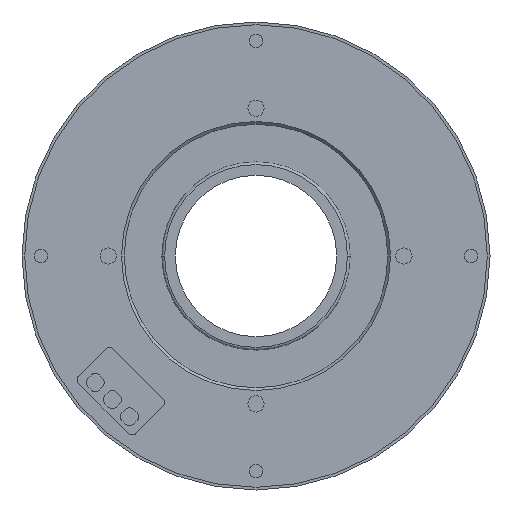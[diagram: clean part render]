
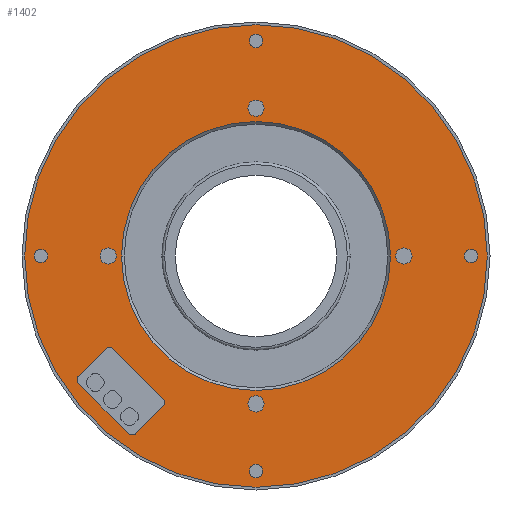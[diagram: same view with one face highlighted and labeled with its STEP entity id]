
A CAD part, front view. The second image highlights one B-rep face of the part: STEP entity #1402.
In plain terms, the highlighted planar face has unit normal (0, -1, 0).
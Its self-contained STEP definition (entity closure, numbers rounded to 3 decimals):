
#11=CARTESIAN_POINT('',(0.,0.,0.));
#12=DIRECTION('',(0.,-1.,0.));
#13=DIRECTION('',(-1.,0.,0.));
#14=AXIS2_PLACEMENT_3D('',#11,#12,#13);
#16=CARTESIAN_POINT('',(0.,0.,0.));
#17=DIRECTION('',(0.,-1.,0.));
#18=DIRECTION('',(1.,0.,0.));
#19=AXIS2_PLACEMENT_3D('',#16,#17,#18);
#21=CARTESIAN_POINT('',(0.,0.,27.5));
#22=DIRECTION('',(0.,-1.,0.));
#23=DIRECTION('',(1.,0.,0.));
#24=AXIS2_PLACEMENT_3D('',#21,#22,#23);
#26=CARTESIAN_POINT('',(0.,0.,27.5));
#27=DIRECTION('',(0.,-1.,0.));
#28=DIRECTION('',(-1.,0.,0.));
#29=AXIS2_PLACEMENT_3D('',#26,#27,#28);
#31=CARTESIAN_POINT('',(27.5,0.,0.));
#32=DIRECTION('',(0.,-1.,0.));
#33=DIRECTION('',(0.,0.,-1.));
#34=AXIS2_PLACEMENT_3D('',#31,#32,#33);
#36=CARTESIAN_POINT('',(27.5,0.,0.));
#37=DIRECTION('',(0.,-1.,0.));
#38=DIRECTION('',(0.,0.,1.));
#39=AXIS2_PLACEMENT_3D('',#36,#37,#38);
#41=CARTESIAN_POINT('',(0.,0.,-27.5));
#42=DIRECTION('',(0.,-1.,0.));
#43=DIRECTION('',(-1.,0.,0.));
#44=AXIS2_PLACEMENT_3D('',#41,#42,#43);
#46=CARTESIAN_POINT('',(0.,0.,-27.5));
#47=DIRECTION('',(0.,-1.,0.));
#48=DIRECTION('',(1.,0.,0.));
#49=AXIS2_PLACEMENT_3D('',#46,#47,#48);
#51=CARTESIAN_POINT('',(-27.5,0.,0.));
#52=DIRECTION('',(0.,-1.,0.));
#53=DIRECTION('',(0.,0.,1.));
#54=AXIS2_PLACEMENT_3D('',#51,#52,#53);
#56=CARTESIAN_POINT('',(-27.5,0.,0.));
#57=DIRECTION('',(0.,-1.,0.));
#58=DIRECTION('',(0.,0.,-1.));
#59=AXIS2_PLACEMENT_3D('',#56,#57,#58);
#71=CARTESIAN_POINT('',(0.,0.,0.));
#72=DIRECTION('',(0.,1.,0.));
#73=DIRECTION('',(1.,0.,0.));
#74=AXIS2_PLACEMENT_3D('',#71,#72,#73);
#76=CARTESIAN_POINT('',(0.,0.,0.));
#77=DIRECTION('',(0.,1.,0.));
#78=DIRECTION('',(-1.,0.,0.));
#79=AXIS2_PLACEMENT_3D('',#76,#77,#78);
#81=CARTESIAN_POINT('',(0.,0.,40.));
#82=DIRECTION('',(0.,-1.,0.));
#83=DIRECTION('',(1.,0.,0.));
#84=AXIS2_PLACEMENT_3D('',#81,#82,#83);
#86=CARTESIAN_POINT('',(0.,0.,40.));
#87=DIRECTION('',(0.,-1.,0.));
#88=DIRECTION('',(-1.,0.,0.));
#89=AXIS2_PLACEMENT_3D('',#86,#87,#88);
#91=CARTESIAN_POINT('',(40.,0.,0.));
#92=DIRECTION('',(0.,-1.,0.));
#93=DIRECTION('',(0.,0.,-1.));
#94=AXIS2_PLACEMENT_3D('',#91,#92,#93);
#96=CARTESIAN_POINT('',(40.,0.,0.));
#97=DIRECTION('',(0.,-1.,0.));
#98=DIRECTION('',(0.,0.,1.));
#99=AXIS2_PLACEMENT_3D('',#96,#97,#98);
#101=CARTESIAN_POINT('',(0.,0.,-40.));
#102=DIRECTION('',(0.,-1.,0.));
#103=DIRECTION('',(-1.,0.,0.));
#104=AXIS2_PLACEMENT_3D('',#101,#102,#103);
#106=CARTESIAN_POINT('',(0.,0.,-40.));
#107=DIRECTION('',(0.,-1.,0.));
#108=DIRECTION('',(1.,0.,0.));
#109=AXIS2_PLACEMENT_3D('',#106,#107,#108);
#111=CARTESIAN_POINT('',(-40.,0.,0.));
#112=DIRECTION('',(0.,-1.,0.));
#113=DIRECTION('',(0.,0.,1.));
#114=AXIS2_PLACEMENT_3D('',#111,#112,#113);
#116=CARTESIAN_POINT('',(-40.,0.,0.));
#117=DIRECTION('',(0.,-1.,0.));
#118=DIRECTION('',(0.,0.,-1.));
#119=AXIS2_PLACEMENT_3D('',#116,#117,#118);
#121=CARTESIAN_POINT('',(-27.259,0.,-17.996));
#122=DIRECTION('',(0.,-1.,0.));
#123=DIRECTION('',(0.707,0.,0.707));
#124=AXIS2_PLACEMENT_3D('',#121,#122,#123);
#126=DIRECTION('',(-0.707,0.,-0.707));
#127=VECTOR('',#126,7.1);
#128=CARTESIAN_POINT('',(-27.966,0.,-17.289));
#129=LINE('',#128,#127);
#130=CARTESIAN_POINT('',(-32.279,0.,-23.016));
#131=DIRECTION('',(0.,-1.,0.));
#132=DIRECTION('',(-0.707,0.,0.707));
#133=AXIS2_PLACEMENT_3D('',#130,#131,#132);
#135=DIRECTION('',(0.707,0.,-0.707));
#136=VECTOR('',#135,13.1);
#137=CARTESIAN_POINT('',(-32.987,0.,-23.723));
#138=LINE('',#137,#136);
#139=CARTESIAN_POINT('',(-23.016,0.,-32.279));
#140=DIRECTION('',(0.,-1.,0.));
#141=DIRECTION('',(-0.707,0.,-0.707));
#142=AXIS2_PLACEMENT_3D('',#139,#140,#141);
#144=DIRECTION('',(0.707,0.,0.707));
#145=VECTOR('',#144,7.1);
#146=CARTESIAN_POINT('',(-22.309,0.,-32.987));
#147=LINE('',#146,#145);
#148=CARTESIAN_POINT('',(-17.996,0.,-27.259));
#149=DIRECTION('',(0.,-1.,0.));
#150=DIRECTION('',(0.707,0.,-0.707));
#151=AXIS2_PLACEMENT_3D('',#148,#149,#150);
#153=DIRECTION('',(-0.707,0.,0.707));
#154=VECTOR('',#153,13.1);
#155=CARTESIAN_POINT('',(-17.289,0.,-26.552));
#156=LINE('',#155,#154);
#1079=CARTESIAN_POINT('',(-43.,0.,0.));
#1080=CARTESIAN_POINT('',(43.,0.,0.));
#1081=VERTEX_POINT('',#1079);
#1082=VERTEX_POINT('',#1080);
#1091=CARTESIAN_POINT('',(1.5,0.,27.5));
#1092=CARTESIAN_POINT('',(-1.5,0.,27.5));
#1093=VERTEX_POINT('',#1091);
#1094=VERTEX_POINT('',#1092);
#1099=CARTESIAN_POINT('',(27.5,0.,-1.5));
#1100=CARTESIAN_POINT('',(27.5,0.,1.5));
#1101=VERTEX_POINT('',#1099);
#1102=VERTEX_POINT('',#1100);
#1107=CARTESIAN_POINT('',(-1.5,0.,-27.5));
#1108=CARTESIAN_POINT('',(1.5,0.,-27.5));
#1109=VERTEX_POINT('',#1107);
#1110=VERTEX_POINT('',#1108);
#1115=CARTESIAN_POINT('',(-27.5,0.,1.5));
#1116=CARTESIAN_POINT('',(-27.5,0.,-1.5));
#1117=VERTEX_POINT('',#1115);
#1118=VERTEX_POINT('',#1116);
#1135=CARTESIAN_POINT('',(25.,0.,0.));
#1136=CARTESIAN_POINT('',(-25.,0.,0.));
#1137=VERTEX_POINT('',#1135);
#1138=VERTEX_POINT('',#1136);
#1147=CARTESIAN_POINT('',(1.25,0.,40.));
#1148=CARTESIAN_POINT('',(-1.25,0.,40.));
#1149=VERTEX_POINT('',#1147);
#1150=VERTEX_POINT('',#1148);
#1155=CARTESIAN_POINT('',(40.,0.,-1.25));
#1156=CARTESIAN_POINT('',(40.,0.,1.25));
#1157=VERTEX_POINT('',#1155);
#1158=VERTEX_POINT('',#1156);
#1163=CARTESIAN_POINT('',(-1.25,0.,-40.));
#1164=CARTESIAN_POINT('',(1.25,0.,-40.));
#1165=VERTEX_POINT('',#1163);
#1166=VERTEX_POINT('',#1164);
#1171=CARTESIAN_POINT('',(-40.,0.,1.25));
#1172=CARTESIAN_POINT('',(-40.,0.,-1.25));
#1173=VERTEX_POINT('',#1171);
#1174=VERTEX_POINT('',#1172);
#1191=CARTESIAN_POINT('',(-26.552,0.,-17.289));
#1192=CARTESIAN_POINT('',(-27.966,0.,-17.289));
#1193=VERTEX_POINT('',#1191);
#1194=VERTEX_POINT('',#1192);
#1195=CARTESIAN_POINT('',(-32.987,0.,-22.309));
#1196=VERTEX_POINT('',#1195);
#1197=CARTESIAN_POINT('',(-32.987,0.,-23.723));
#1198=VERTEX_POINT('',#1197);
#1199=CARTESIAN_POINT('',(-23.723,0.,-32.987));
#1200=VERTEX_POINT('',#1199);
#1201=CARTESIAN_POINT('',(-22.309,0.,-32.987));
#1202=VERTEX_POINT('',#1201);
#1203=CARTESIAN_POINT('',(-17.289,0.,-27.966));
#1204=VERTEX_POINT('',#1203);
#1205=CARTESIAN_POINT('',(-17.289,0.,-26.552));
#1206=VERTEX_POINT('',#1205);
#1319=CARTESIAN_POINT('',(0.,0.,0.));
#1320=DIRECTION('',(0.,1.,0.));
#1321=DIRECTION('',(1.,0.,0.));
#1322=AXIS2_PLACEMENT_3D('',#1319,#1320,#1321);
#1323=PLANE('',#1322);
#1325=ORIENTED_EDGE('',*,*,#1324,.F.);
#1327=ORIENTED_EDGE('',*,*,#1326,.F.);
#1328=EDGE_LOOP('',(#1325,#1327));
#1329=FACE_OUTER_BOUND('',#1328,.F.);
#1331=ORIENTED_EDGE('',*,*,#1330,.T.);
#1333=ORIENTED_EDGE('',*,*,#1332,.T.);
#1334=EDGE_LOOP('',(#1331,#1333));
#1335=FACE_BOUND('',#1334,.F.);
#1337=ORIENTED_EDGE('',*,*,#1336,.T.);
#1339=ORIENTED_EDGE('',*,*,#1338,.T.);
#1340=EDGE_LOOP('',(#1337,#1339));
#1341=FACE_BOUND('',#1340,.F.);
#1343=ORIENTED_EDGE('',*,*,#1342,.T.);
#1345=ORIENTED_EDGE('',*,*,#1344,.T.);
#1346=EDGE_LOOP('',(#1343,#1345));
#1347=FACE_BOUND('',#1346,.F.);
#1349=ORIENTED_EDGE('',*,*,#1348,.T.);
#1351=ORIENTED_EDGE('',*,*,#1350,.T.);
#1352=EDGE_LOOP('',(#1349,#1351));
#1353=FACE_BOUND('',#1352,.F.);
#1355=ORIENTED_EDGE('',*,*,#1354,.F.);
#1357=ORIENTED_EDGE('',*,*,#1356,.F.);
#1358=EDGE_LOOP('',(#1355,#1357));
#1359=FACE_BOUND('',#1358,.F.);
#1361=ORIENTED_EDGE('',*,*,#1360,.T.);
#1363=ORIENTED_EDGE('',*,*,#1362,.T.);
#1364=EDGE_LOOP('',(#1361,#1363));
#1365=FACE_BOUND('',#1364,.F.);
#1367=ORIENTED_EDGE('',*,*,#1366,.T.);
#1369=ORIENTED_EDGE('',*,*,#1368,.T.);
#1370=EDGE_LOOP('',(#1367,#1369));
#1371=FACE_BOUND('',#1370,.F.);
#1373=ORIENTED_EDGE('',*,*,#1372,.T.);
#1375=ORIENTED_EDGE('',*,*,#1374,.T.);
#1376=EDGE_LOOP('',(#1373,#1375));
#1377=FACE_BOUND('',#1376,.F.);
#1379=ORIENTED_EDGE('',*,*,#1378,.T.);
#1381=ORIENTED_EDGE('',*,*,#1380,.T.);
#1382=EDGE_LOOP('',(#1379,#1381));
#1383=FACE_BOUND('',#1382,.F.);
#1385=ORIENTED_EDGE('',*,*,#1384,.T.);
#1387=ORIENTED_EDGE('',*,*,#1386,.T.);
#1389=ORIENTED_EDGE('',*,*,#1388,.T.);
#1391=ORIENTED_EDGE('',*,*,#1390,.T.);
#1393=ORIENTED_EDGE('',*,*,#1392,.T.);
#1395=ORIENTED_EDGE('',*,*,#1394,.T.);
#1397=ORIENTED_EDGE('',*,*,#1396,.T.);
#1399=ORIENTED_EDGE('',*,*,#1398,.T.);
#1400=EDGE_LOOP('',(#1385,#1387,#1389,#1391,#1393,#1395,#1397,#1399));
#1401=FACE_BOUND('',#1400,.F.);
#15=CIRCLE('',#14,43.);
#20=CIRCLE('',#19,43.);
#25=CIRCLE('',#24,1.5);
#30=CIRCLE('',#29,1.5);
#35=CIRCLE('',#34,1.5);
#40=CIRCLE('',#39,1.5);
#45=CIRCLE('',#44,1.5);
#50=CIRCLE('',#49,1.5);
#55=CIRCLE('',#54,1.5);
#60=CIRCLE('',#59,1.5);
#75=CIRCLE('',#74,25.);
#80=CIRCLE('',#79,25.);
#85=CIRCLE('',#84,1.25);
#90=CIRCLE('',#89,1.25);
#95=CIRCLE('',#94,1.25);
#100=CIRCLE('',#99,1.25);
#105=CIRCLE('',#104,1.25);
#110=CIRCLE('',#109,1.25);
#115=CIRCLE('',#114,1.25);
#120=CIRCLE('',#119,1.25);
#125=CIRCLE('',#124,1.);
#134=CIRCLE('',#133,1.);
#143=CIRCLE('',#142,1.);
#152=CIRCLE('',#151,1.);
#1324=EDGE_CURVE('',#1081,#1082,#15,.T.);
#1326=EDGE_CURVE('',#1082,#1081,#20,.T.);
#1330=EDGE_CURVE('',#1093,#1094,#25,.T.);
#1332=EDGE_CURVE('',#1094,#1093,#30,.T.);
#1336=EDGE_CURVE('',#1101,#1102,#35,.T.);
#1338=EDGE_CURVE('',#1102,#1101,#40,.T.);
#1342=EDGE_CURVE('',#1109,#1110,#45,.T.);
#1344=EDGE_CURVE('',#1110,#1109,#50,.T.);
#1348=EDGE_CURVE('',#1117,#1118,#55,.T.);
#1350=EDGE_CURVE('',#1118,#1117,#60,.T.);
#1354=EDGE_CURVE('',#1137,#1138,#75,.T.);
#1356=EDGE_CURVE('',#1138,#1137,#80,.T.);
#1360=EDGE_CURVE('',#1149,#1150,#85,.T.);
#1362=EDGE_CURVE('',#1150,#1149,#90,.T.);
#1366=EDGE_CURVE('',#1157,#1158,#95,.T.);
#1368=EDGE_CURVE('',#1158,#1157,#100,.T.);
#1372=EDGE_CURVE('',#1165,#1166,#105,.T.);
#1374=EDGE_CURVE('',#1166,#1165,#110,.T.);
#1378=EDGE_CURVE('',#1173,#1174,#115,.T.);
#1380=EDGE_CURVE('',#1174,#1173,#120,.T.);
#1384=EDGE_CURVE('',#1193,#1194,#125,.T.);
#1386=EDGE_CURVE('',#1194,#1196,#129,.T.);
#1388=EDGE_CURVE('',#1196,#1198,#134,.T.);
#1390=EDGE_CURVE('',#1198,#1200,#138,.T.);
#1392=EDGE_CURVE('',#1200,#1202,#143,.T.);
#1394=EDGE_CURVE('',#1202,#1204,#147,.T.);
#1396=EDGE_CURVE('',#1204,#1206,#152,.T.);
#1398=EDGE_CURVE('',#1206,#1193,#156,.T.);
#1402=ADVANCED_FACE('',(#1329,#1335,#1341,#1347,#1353,#1359,#1365,#1371,#1377,
#1383,#1401),#1323,.F.);
